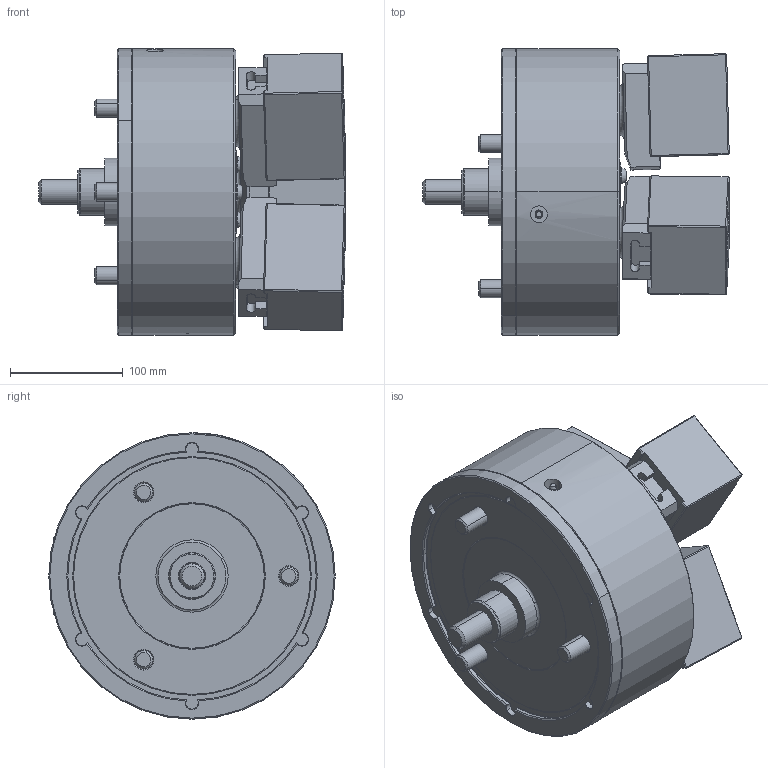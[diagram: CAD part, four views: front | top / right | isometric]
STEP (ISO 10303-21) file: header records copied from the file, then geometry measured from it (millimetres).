
FILE_DESCRIPTION (( 'STEP AP214' ), '1' );
FILE_NAME ('PW-10_OC_ID.STEP', '2019-10-07T05:25:00', ( '' ), ( '' ), 'SwSTEP 2.0', 'SolidWorks 2017', '' );
FILE_SCHEMA (( 'AUTOMOTIVE_DESIGN' ));
Length unit declared in the file: millimetre
Products named in the file (5): 結合_ID; 0030116025; 61P420193; 61P322899; PW-10_OC_ID
Assembly tree (13 placements, depth 2):
  PW-10_OC_ID
    61P322899  x3
    61P420193  x3
    0030116025  x6
    結合_ID
Bounding box: 271.64 x 254 x 254 mm (x, y, z)
Volume: 6672372.2 mm3; surface area: 499034.5 mm2
Topology: 13 solids, 14 shells, 1633 faces, 4060 edges, 2564 vertices
Faces by surface type: plane 828, cone 297, cylinder 261, bspline 189, torus 58
Entity records: 49283 total; most frequent: CARTESIAN_POINT 17992, ORIENTED_EDGE 6808, DIRECTION 5763, EDGE_CURVE 3404, VERTEX_POINT 2173, AXIS2_PLACEMENT_3D 1934, VECTOR 1895, LINE 1895
